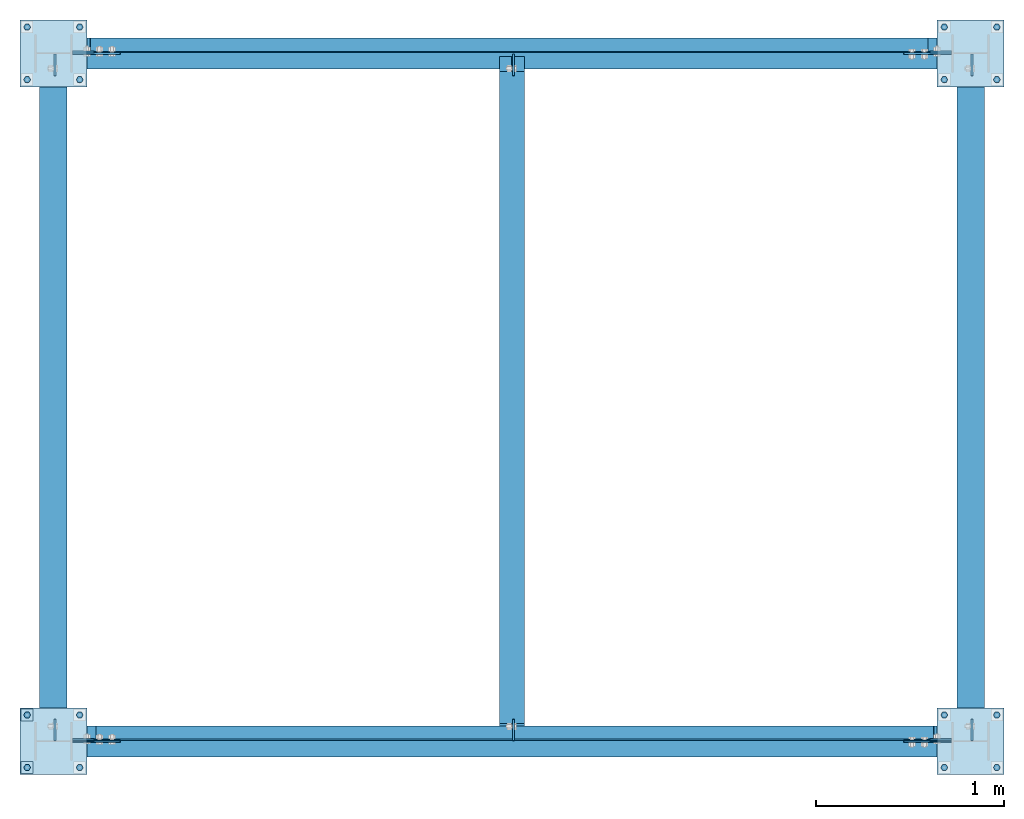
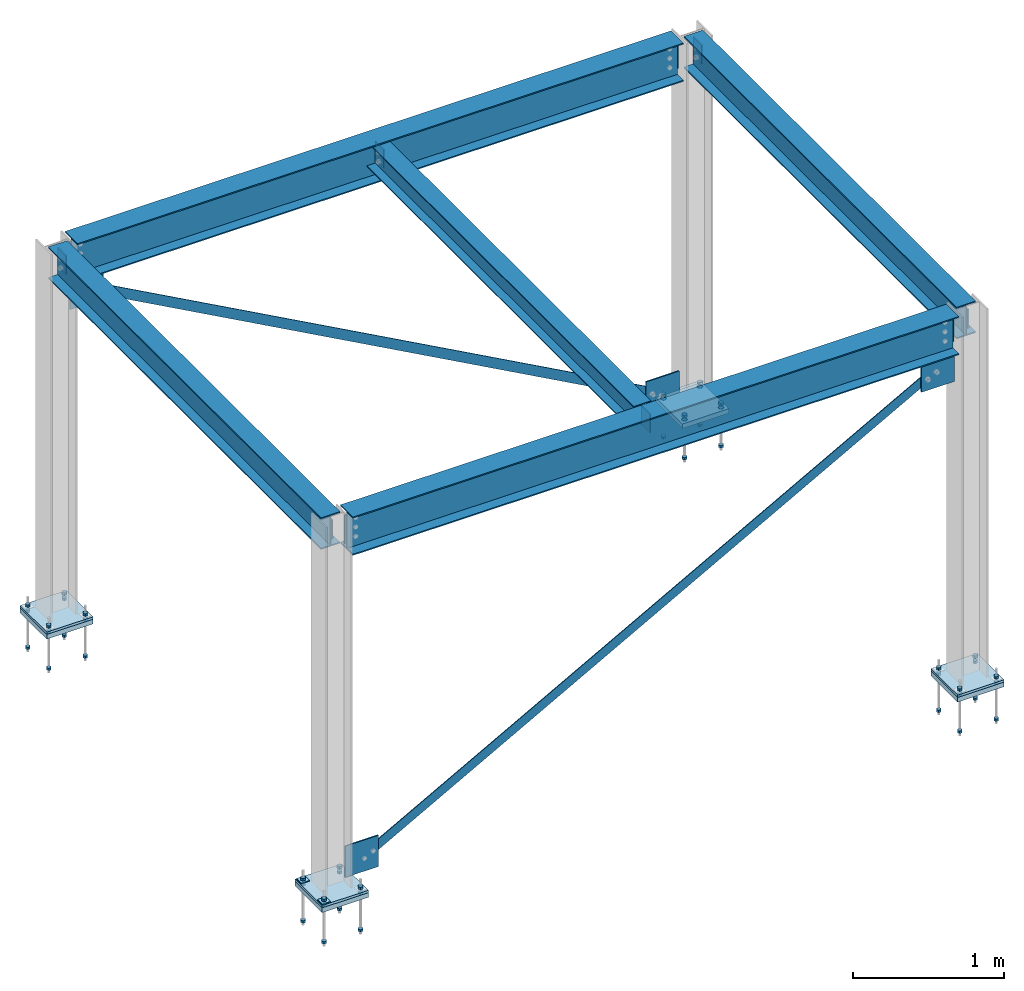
# One storey, part 4 of 5: 48 columns, 20 plates, 5 beams, 4 slabs, 2 members, 20 openings.
"""IFC4 building model written with IfcOpenShell, lengths in millimetres."""

from ifc_helpers import new_model, si_unit, direction, frame, origin_with_axes, place, context, subcontext, project, spatial, line, indexed_curve, outline, extrude, material, element, save


model = new_model("IFC4")

# Units and contexts
model_context = context("Model", 3, precision=0.2, world=origin_with_axes(), true_north=direction((0.0, 1.0)))
body_context = subcontext(model_context, "Body", "Model", "MODEL_VIEW")
ifc_project = project(units=[si_unit("LENGTHUNIT", "METRE", prefix="MILLI"), si_unit("AREAUNIT", "SQUARE_METRE"), si_unit("VOLUMEUNIT", "CUBIC_METRE"), si_unit("MASSUNIT", "GRAM", prefix="KILO"), si_unit("TIMEUNIT", "SECOND"), si_unit("PLANEANGLEUNIT", "RADIAN"), si_unit("SOLIDANGLEUNIT", "STERADIAN"), si_unit("THERMODYNAMICTEMPERATUREUNIT", "DEGREE_CELSIUS"), si_unit("LUMINOUSINTENSITYUNIT", "LUMEN")], contexts=[model_context])

# Site, building, storey
site_placement = place(None, origin_with_axes())
site = spatial("IfcSite", under=ifc_project, at=site_placement, Name="Unknown", CompositionType="ELEMENT")
building_placement = place(site_placement, origin_with_axes())
building = spatial("IfcBuilding", under=site, at=building_placement, Name="Unknown", CompositionType="ELEMENT")
storey_placement = place(building_placement, origin_with_axes())
storey = spatial("IfcBuildingStorey", under=building, at=storey_placement, Name="Unknown", CompositionType="ELEMENT", Elevation=0.0)

# Columns
ifc_material_1 = material(Name="A563", Category="STEEL")
for number, where, z_axis, x_axis, name in (
    (1, (-139.7, -139.7, -279.4), (-1.0, 0.0, 0.0), (0.0, 0.0, 1.0), "ANCHOR NUT"),
    (2, (-139.7, -139.7, 63.5), (-1.0, 0.0, 0.0), (0.0, 0.0, 1.0), "ANCHOR NUT"),
    (3, (-139.7, -139.7, 19.44688), (-1.0, 0.0, 0.0), (0.0, 0.0, 1.0), "LEVELING NUT"),
    (4, (-139.7, 139.7, -279.4), (-1.0, 0.0, 0.0), (0.0, 0.0, 1.0), "ANCHOR NUT"),
    (5, (-139.7, 139.7, 63.5), (-1.0, 0.0, 0.0), (0.0, 0.0, 1.0), "ANCHOR NUT"),
    (6, (-139.7, 139.7, 19.44688), (-1.0, 0.0, 0.0), (0.0, 0.0, 1.0), "LEVELING NUT"),
    (7, (139.7, -139.7, -279.4), (-1.0, 0.0, 0.0), (0.0, 0.0, 1.0), "ANCHOR NUT"),
    (8, (139.7, -139.7, 63.5), (-1.0, 0.0, 0.0), (0.0, 0.0, 1.0), "ANCHOR NUT"),
    (9, (139.7, -139.7, 19.44688), (-1.0, 0.0, 0.0), (0.0, 0.0, 1.0), "LEVELING NUT"),
    (10, (139.7, 139.7, -279.4), (-1.0, 0.0, 0.0), (0.0, 0.0, 1.0), "ANCHOR NUT"),
    (11, (139.7, 139.7, 63.5), (-1.0, 0.0, 0.0), (0.0, 0.0, 1.0), "ANCHOR NUT"),
    (12, (139.7, 139.7, 19.44688), (-1.0, 0.0, 0.0), (0.0, 0.0, 1.0), "LEVELING NUT"),
    (13, (4737.1, -139.7, -279.4), (-1.0, 0.0, 0.0), (0.0, 0.0, 1.0), "ANCHOR NUT"),
    (14, (4737.1, -139.7, 63.5), (-1.0, 0.0, 0.0), (0.0, 0.0, 1.0), "ANCHOR NUT"),
    (15, (4737.1, -139.7, 19.44688), (-1.0, 0.0, 0.0), (0.0, 0.0, 1.0), "LEVELING NUT"),
    (16, (4737.1, 139.7, -279.4), (-1.0, 0.0, 0.0), (0.0, 0.0, 1.0), "ANCHOR NUT"),
    (17, (4737.1, 139.7, 63.5), (-1.0, 0.0, 0.0), (0.0, 0.0, 1.0), "ANCHOR NUT"),
    (18, (4737.1, 139.7, 19.44688), (-1.0, 0.0, 0.0), (0.0, 0.0, 1.0), "LEVELING NUT"),
    (19, (5016.5, -139.7, -279.4), (-1.0, 0.0, 0.0), (0.0, 0.0, 1.0), "ANCHOR NUT"),
    (20, (5016.5, -139.7, 63.5), (-1.0, 0.0, 0.0), (0.0, 0.0, 1.0), "ANCHOR NUT"),
    (21, (5016.5, -139.7, 19.44688), (-1.0, 0.0, 0.0), (0.0, 0.0, 1.0), "LEVELING NUT"),
    (22, (5016.5, 139.7, -279.4), (-1.0, 0.0, 0.0), (0.0, 0.0, 1.0), "ANCHOR NUT"),
    (23, (5016.5, 139.7, 63.5), (-1.0, 0.0, 0.0), (0.0, 0.0, 1.0), "ANCHOR NUT"),
    (24, (5016.5, 139.7, 19.44688), (-1.0, 0.0, 0.0), (0.0, 0.0, 1.0), "LEVELING NUT"),
    (25, (-139.7, 3517.9, -279.4), (-1.0, 0.0, 0.0), (0.0, 0.0, 1.0), "ANCHOR NUT"),
    (26, (-139.7, 3517.9, 63.5), (-1.0, 0.0, 0.0), (0.0, 0.0, 1.0), "ANCHOR NUT"),
    (27, (-139.7, 3517.9, 19.44688), (-1.0, 0.0, 0.0), (0.0, 0.0, 1.0), "LEVELING NUT"),
    (28, (-139.7, 3797.3, -279.4), (-1.0, 0.0, 0.0), (0.0, 0.0, 1.0), "ANCHOR NUT"),
    (29, (-139.7, 3797.3, 63.5), (-1.0, 0.0, 0.0), (0.0, 0.0, 1.0), "ANCHOR NUT"),
    (30, (-139.7, 3797.3, 19.44688), (-1.0, 0.0, 0.0), (0.0, 0.0, 1.0), "LEVELING NUT"),
    (31, (139.7, 3517.9, -279.4), (-1.0, 0.0, 0.0), (0.0, 0.0, 1.0), "ANCHOR NUT"),
    (32, (139.7, 3517.9, 63.5), (-1.0, 0.0, 0.0), (0.0, 0.0, 1.0), "ANCHOR NUT"),
    (33, (139.7, 3517.9, 19.44688), (-1.0, 0.0, 0.0), (0.0, 0.0, 1.0), "LEVELING NUT"),
    (34, (139.7, 3797.3, -279.4), (-1.0, 0.0, 0.0), (0.0, 0.0, 1.0), "ANCHOR NUT"),
    (35, (139.7, 3797.3, 63.5), (-1.0, 0.0, 0.0), (0.0, 0.0, 1.0), "ANCHOR NUT"),
    (36, (139.7, 3797.3, 19.44688), (-1.0, 0.0, 0.0), (0.0, 0.0, 1.0), "LEVELING NUT"),
    (37, (4737.1, 3517.9, -279.4), (-1.0, 0.0, 0.0), (0.0, 0.0, 1.0), "ANCHOR NUT"),
    (38, (4737.1, 3517.9, 63.5), (-1.0, 0.0, 0.0), (0.0, 0.0, 1.0), "ANCHOR NUT"),
    (39, (4737.1, 3517.9, 19.44688), (-1.0, 0.0, 0.0), (0.0, 0.0, 1.0), "LEVELING NUT"),
    (40, (4737.1, 3797.3, -279.4), (-1.0, 0.0, 0.0), (0.0, 0.0, 1.0), "ANCHOR NUT"),
    (41, (4737.1, 3797.3, 63.5), (-1.0, 0.0, 0.0), (0.0, 0.0, 1.0), "ANCHOR NUT"),
    (42, (4737.1, 3797.3, 19.44688), (-1.0, 0.0, 0.0), (0.0, 0.0, 1.0), "LEVELING NUT"),
    (43, (5016.5, 3517.9, -279.4), (-1.0, 0.0, 0.0), (0.0, 0.0, 1.0), "ANCHOR NUT"),
    (44, (5016.5, 3517.9, 63.5), (-1.0, 0.0, 0.0), (0.0, 0.0, 1.0), "ANCHOR NUT"),
    (45, (5016.5, 3517.9, 19.44688), (-1.0, 0.0, 0.0), (0.0, 0.0, 1.0), "LEVELING NUT"),
    (46, (5016.5, 3797.3, -279.4), (-1.0, 0.0, 0.0), (0.0, 0.0, 1.0), "ANCHOR NUT"),
    (47, (5016.5, 3797.3, 63.5), (-1.0, 0.0, 0.0), (0.0, 0.0, 1.0), "ANCHOR NUT"),
    (48, (5016.5, 3797.3, 19.44688), (-1.0, 0.0, 0.0), (0.0, 0.0, 1.0), "LEVELING NUT"),
):
    element("IfcColumn", number, at=place(storey_placement, frame(where, z_axis=z_axis, x_axis=x_axis)), inside=storey, material=ifc_material_1, Name=name, PredefinedType="NOTDEFINED", context=body_context, shape_type="SolidModel", body=[
        extrude(outline(indexed_curve([(9.16558, -15.87525), (18.33116, 0.0), (9.16558, 15.87525), (-9.16558, 15.87525), (-18.33116, 0.0), (-9.16558, -15.87525)], segments=[line(1, 2, 3, 4, 5, 6, 1)])), frame((0.0, 0.0, 0.0), z_axis=(-1.0, 0.0, 0.0), x_axis=(0.0, 0.0, 1.0)), (0.0, 0.0, -1.0), 18.65313),
    ])

# Beams
ifc_material_2 = material(Name="A992", Category="STEEL")
for number, where, z_axis, x_axis, name in (
    (49, (114.3, 0.0, 2892.425), (0.0, -1.0, 0.0), (1.0, 0.0, 0.0), "BEAM"),
    (50, (114.3, 3657.6, 2892.425), (0.0, -1.0, 0.0), (1.0, 0.0, 0.0), "BEAM"),
):
    element("IfcBeam", number, at=place(storey_placement, frame(where, z_axis=z_axis, x_axis=x_axis)), inside=storey, material=ifc_material_2, Name=name, PredefinedType="NOTDEFINED", context=body_context, shape_type="SolidModel", body=[
        extrude(outline(indexed_curve([(-82.55, -155.575), (82.55, -155.575), (82.55, -146.05), (3.175, -146.05), (3.175, 146.05), (82.55, 146.05), (82.55, 155.575), (-82.55, 155.575), (-82.55, 146.05), (-3.175, 146.05), (-3.175, -146.05), (-82.55, -146.05)], segments=[line(1, 2, 3, 4, 5, 6, 7, 8, 9, 10, 11, 12, 1)])), frame((0.0, 0.0, 0.0), z_axis=(-1.0, 0.0, 0.0), x_axis=(0.0, 0.0, 1.0)), (0.0, 0.0, -1.0), 4648.2),
    ])
for number, where, z_axis, x_axis, name in (
    (51, (0.0, 16.66875, 2919.4125), (1.0, 0.0, 0.0), (0.0, 1.0, 0.0), "BEAM"),
    (52, (4876.8, 16.66875, 2919.4125), (1.0, 0.0, 0.0), (0.0, 1.0, 0.0), "BEAM"),
):
    element("IfcBeam", number, at=place(storey_placement, frame(where, z_axis=z_axis, x_axis=x_axis)), inside=storey, material=ifc_material_2, Name=name, PredefinedType="NOTDEFINED", context=body_context, shape_type="SolidModel", body=[
        extrude(outline(indexed_curve([(-73.025, -128.5875), (73.025, -128.5875), (73.025, -119.0625), (3.175, -119.0625), (3.175, 119.0625), (73.025, 119.0625), (73.025, 128.5875), (-73.025, 128.5875), (-73.025, 119.0625), (-3.175, 119.0625), (-3.175, -119.0625), (-73.025, -119.0625)], segments=[line(1, 2, 3, 4, 5, 6, 7, 8, 9, 10, 11, 12, 1)])), frame((0.0, 0.0, 0.0), z_axis=(-1.0, 0.0, 0.0), x_axis=(0.0, 0.0, 1.0)), (0.0, 0.0, -1.0), 3624.2625),
    ])

# Beam, voiding features
beam_placement = place(storey_placement, frame((2438.4, 15.875, 2944.8125), z_axis=(1.0, 0.0, 0.0), x_axis=(0.0, 1.0, 0.0)))
beam = element("IfcBeam", 53, at=beam_placement, inside=storey, material=ifc_material_2, Name="BEAM", PredefinedType="NOTDEFINED", context=body_context, shape_type="SolidModel", body=[
    extrude(outline(indexed_curve([(-66.675, -103.1875), (66.675, -103.1875), (66.675, -95.25), (3.175, -95.25), (3.175, 95.25), (66.675, 95.25), (66.675, 103.1875), (-66.675, 103.1875), (-66.675, 95.25), (-3.175, 95.25), (-3.175, -95.25), (-66.675, -95.25)], segments=[line(1, 2, 3, 4, 5, 6, 7, 8, 9, 10, 11, 12, 1)])), frame((0.0, 0.0, 0.0), z_axis=(-1.0, 0.0, 0.0), x_axis=(0.0, 0.0, 1.0)), (0.0, 0.0, -1.0), 3625.85),
])
voiding_feature_1_placement = place(beam_placement, frame((-25.395, 103.1875, 0.0), z_axis=(0.0, 1.0, 0.0), x_axis=(1.0, 0.0, 0.0)))
element("IfcVoidingFeature", 54, at=voiding_feature_1_placement, cuts=beam, Name="BEAM", PredefinedType="HOLE", context=body_context, shape_type="SolidModel", body=[
    extrude(outline(indexed_curve([(-25.4, -101.6), (25.4, -101.6), (25.4, 101.6), (-25.4, 101.6)], segments=[line(1, 2, 3, 4, 1)])), frame((0.0, 0.0, 0.0), z_axis=(-1.0, 0.0, 0.0), x_axis=(0.0, 0.0, 1.0)), (0.0, 0.0, -1.0), 104.77),
])
voiding_feature_2_placement = place(beam_placement, frame((3546.475, 103.1875, 0.0), z_axis=(0.0, 1.0, 0.0), x_axis=(1.0, 0.0, 0.0)))
element("IfcVoidingFeature", 55, at=voiding_feature_2_placement, cuts=beam, Name="BEAM", PredefinedType="HOLE", context=body_context, shape_type="SolidModel", body=[
    extrude(outline(indexed_curve([(-25.4, -101.6), (25.4, -101.6), (25.4, 101.6), (-25.4, 101.6)], segments=[line(1, 2, 3, 4, 1)])), frame((0.0, 0.0, 0.0), z_axis=(-1.0, 0.0, 0.0), x_axis=(0.0, 0.0, 1.0)), (0.0, 0.0, -1.0), 104.77),
])

# Members
ifc_material_3 = material(Name="A36", Category="STEEL")
for number, where, z_axis, x_axis, name in (
    (56, (211.47739, 42.8625, 173.35242), (-0.4815682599, 0.0, 0.8764085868), (0.8764085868, 0.0, 0.4815682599), "BRACE"),
    (57, (4665.32261, 3700.4625, 173.35242), (0.0, 1.0, 0.0), (-0.8764085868, 0.0, 0.4815682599), "BRACE"),
):
    element("IfcMember", number, at=place(storey_placement, frame(where, z_axis=z_axis, x_axis=x_axis)), inside=storey, material=ifc_material_3, Name=name, PredefinedType="NOTDEFINED", context=body_context, shape_type="SolidModel", body=[
        extrude(outline(indexed_curve([(-38.1, -38.1), (38.1, -38.1), (38.1, -31.75), (-31.75, -31.75), (-31.75, 38.1), (-38.1, 38.1)], segments=[line(1, 2, 3, 4, 5, 6, 1)])), frame((0.0, 0.0, 0.0), z_axis=(-1.0, 0.0, 0.0), x_axis=(0.0, 0.0, 1.0)), (0.0, 0.0, -1.0), 5081.92786),
    ])

# Plates
plate_1_placement = place(storey_placement, frame((101.6, 0.0, 82.55), z_axis=(0.0, -1.0, 0.0), x_axis=(1.0, 0.0, 0.0)))
element("IfcPlate", 58, at=plate_1_placement, inside=storey, material=ifc_material_3, Name="GUSSET PLATE", PredefinedType="NOTDEFINED", context=body_context, shape_type="SolidModel", body=[
    extrude(outline(indexed_curve([(0.0, 0.0), (254.0, 0.0), (254.0, 254.0), (0.0, 254.0)], segments=[line(1, 2, 3, 4, 1)])), frame((0.0, 0.0, 4.7625), z_axis=(0.0, 0.0, 1.0), x_axis=(1.0, 0.0, 0.0)), (0.0, 0.0, -1.0), 9.525),
])
plate_2_placement = place(storey_placement, frame((7.9375, 3.96875, 2857.5), z_axis=(1.0, 0.0, 0.0), x_axis=(0.0, 1.0, 0.0)))
element("IfcPlate", 59, at=plate_2_placement, inside=storey, material=ifc_material_3, Name="SHEAR TAB", PredefinedType="NOTDEFINED", context=body_context, shape_type="SolidModel", body=[
    extrude(outline(indexed_curve([(0.0, 0.0), (114.3, 0.0), (114.3, 152.4), (0.0, 152.4)], segments=[line(1, 2, 3, 4, 1)])), frame((0.0, 0.0, 4.7625), z_axis=(0.0, 0.0, 1.0), x_axis=(1.0, 0.0, 0.0)), (0.0, 0.0, -1.0), 9.525),
])
plate_3_placement = place(storey_placement, frame((101.6, 7.9375, 2787.65), z_axis=(0.0, -1.0, 0.0), x_axis=(1.0, 0.0, 0.0)))
element("IfcPlate", 60, at=plate_3_placement, inside=storey, material=ifc_material_3, Name="SHEAR TAB", PredefinedType="NOTDEFINED", context=body_context, shape_type="SolidModel", body=[
    extrude(outline(indexed_curve([(0.0, 0.0), (114.3, 0.0), (114.3, 228.6), (0.0, 228.6)], segments=[line(1, 2, 3, 4, 1)])), frame((0.0, 0.0, 4.7625), z_axis=(0.0, 0.0, 1.0), x_axis=(1.0, 0.0, 0.0)), (0.0, 0.0, -1.0), 9.525),
])
plate_4_placement = place(storey_placement, frame((-177.8, -177.8, 47.625), z_axis=(0.0, 0.0, 1.0), x_axis=(1.0, 0.0, 0.0)))
element("IfcPlate", 61, at=plate_4_placement, inside=storey, material=ifc_material_3, Name="BASEPLATE", PredefinedType="NOTDEFINED", context=body_context, shape_type="SolidModel", body=[
    extrude(outline(indexed_curve([(0.0, 0.0), (355.6, 0.0), (355.6, 355.6), (0.0, 355.6)], segments=[line(1, 2, 3, 4, 1)])), frame((0.0, 0.0, 9.525), z_axis=(0.0, 0.0, 1.0), x_axis=(1.0, 0.0, 0.0)), (0.0, 0.0, -1.0), 19.05),
])

# Slab, voiding features
ifc_material_4 = material(Name="GROUT", Category="CONCRETE")
slab_1_placement = place(storey_placement, frame((-177.8, -177.8, 19.05), z_axis=(0.0, 0.0, 1.0), x_axis=(1.0, 0.0, 0.0)))
slab_1 = element("IfcSlab", 62, at=slab_1_placement, inside=storey, material=ifc_material_4, Name="REF NON-SHRINK GROUT", PredefinedType="NOTDEFINED", context=body_context, shape_type="SolidModel", body=[
    extrude(outline(indexed_curve([(0.0, 0.0), (355.6, 0.0), (355.6, 355.6), (0.0, 355.6)], segments=[line(1, 2, 3, 4, 1)])), frame((0.0, 0.0, 19.05), z_axis=(0.0, 0.0, 1.0), x_axis=(1.0, 0.0, 0.0)), (0.0, 0.0, -1.0), 38.1),
])
voiding_feature_3_placement = place(slab_1_placement, frame((38.1, 38.1, 39.05), z_axis=(1.0, 0.0, 0.0), x_axis=(0.0, 0.0, -1.0)))
element("IfcVoidingFeature", 63, at=voiding_feature_3_placement, cuts=slab_1, Name="BEAM", PredefinedType="HOLE", context=body_context, shape_type="SolidModel", body=[
    extrude(outline(indexed_curve([(19.85, 0.0), (17.1906, 9.925), (9.925, 17.1906), (0.0, 19.85), (-9.925, 17.1906), (-17.1906, 9.925), (-19.85, 0.0), (-17.1906, -9.925), (-9.925, -17.1906), (0.0, -19.85), (9.925, -17.1906), (17.1906, -9.925)], segments=[line(1, 2, 3, 4, 5, 6, 7, 8, 9, 10, 11, 12, 1)])), frame((0.0, 0.0, 0.0), z_axis=(-1.0, 0.0, 0.0), x_axis=(0.0, 0.0, 1.0)), (0.0, 0.0, -1.0), 78.1),
])
voiding_feature_4_placement = place(slab_1_placement, frame((38.1, 317.5, 39.05), z_axis=(1.0, 0.0, 0.0), x_axis=(0.0, 0.0, -1.0)))
element("IfcVoidingFeature", 64, at=voiding_feature_4_placement, cuts=slab_1, Name="BEAM", PredefinedType="HOLE", context=body_context, shape_type="SolidModel", body=[
    extrude(outline(indexed_curve([(19.85, 0.0), (17.1906, 9.925), (9.925, 17.1906), (0.0, 19.85), (-9.925, 17.1906), (-17.1906, 9.925), (-19.85, 0.0), (-17.1906, -9.925), (-9.925, -17.1906), (0.0, -19.85), (9.925, -17.1906), (17.1906, -9.925)], segments=[line(1, 2, 3, 4, 5, 6, 7, 8, 9, 10, 11, 12, 1)])), frame((0.0, 0.0, 0.0), z_axis=(-1.0, 0.0, 0.0), x_axis=(0.0, 0.0, 1.0)), (0.0, 0.0, -1.0), 78.1),
])
voiding_feature_5_placement = place(slab_1_placement, frame((317.5, 38.1, 39.05), z_axis=(1.0, 0.0, 0.0), x_axis=(0.0, 0.0, -1.0)))
element("IfcVoidingFeature", 65, at=voiding_feature_5_placement, cuts=slab_1, Name="BEAM", PredefinedType="HOLE", context=body_context, shape_type="SolidModel", body=[
    extrude(outline(indexed_curve([(19.85, 0.0), (17.1906, 9.925), (9.925, 17.1906), (0.0, 19.85), (-9.925, 17.1906), (-17.1906, 9.925), (-19.85, 0.0), (-17.1906, -9.925), (-9.925, -17.1906), (0.0, -19.85), (9.925, -17.1906), (17.1906, -9.925)], segments=[line(1, 2, 3, 4, 5, 6, 7, 8, 9, 10, 11, 12, 1)])), frame((0.0, 0.0, 0.0), z_axis=(-1.0, 0.0, 0.0), x_axis=(0.0, 0.0, 1.0)), (0.0, 0.0, -1.0), 78.1),
])
voiding_feature_6_placement = place(slab_1_placement, frame((317.5, 317.5, 39.05), z_axis=(1.0, 0.0, 0.0), x_axis=(0.0, 0.0, -1.0)))
element("IfcVoidingFeature", 66, at=voiding_feature_6_placement, cuts=slab_1, Name="BEAM", PredefinedType="HOLE", context=body_context, shape_type="SolidModel", body=[
    extrude(outline(indexed_curve([(19.85, 0.0), (17.1906, 9.925), (9.925, 17.1906), (0.0, 19.85), (-9.925, 17.1906), (-17.1906, 9.925), (-19.85, 0.0), (-17.1906, -9.925), (-9.925, -17.1906), (0.0, -19.85), (9.925, -17.1906), (17.1906, -9.925)], segments=[line(1, 2, 3, 4, 5, 6, 7, 8, 9, 10, 11, 12, 1)])), frame((0.0, 0.0, 0.0), z_axis=(-1.0, 0.0, 0.0), x_axis=(0.0, 0.0, 1.0)), (0.0, 0.0, -1.0), 78.1),
])

# Plate, voiding feature
plate_5_placement = place(storey_placement, frame((-171.45, -171.45, 60.325), z_axis=(0.0, 0.0, 1.0), x_axis=(1.0, 0.0, 0.0)))
plate_5 = element("IfcPlate", 67, at=plate_5_placement, inside=storey, material=ifc_material_3, Name="PLATE WASHER", PredefinedType="NOTDEFINED", context=body_context, shape_type="SolidModel", body=[
    extrude(outline(indexed_curve([(0.0, 0.0), (63.5, 0.0), (63.5, 63.5), (0.0, 63.5)], segments=[line(1, 2, 3, 4, 1)])), frame((0.0, 0.0, 3.175), z_axis=(0.0, 0.0, 1.0), x_axis=(1.0, 0.0, 0.0)), (0.0, 0.0, -1.0), 6.35),
])
voiding_feature_7_placement = place(plate_5_placement, frame((31.75, 31.75, 23.175), z_axis=(1.0, 0.0, 0.0), x_axis=(0.0, 0.0, -1.0)))
element("IfcVoidingFeature", 68, at=voiding_feature_7_placement, cuts=plate_5, Name="BEAM", PredefinedType="HOLE", context=body_context, shape_type="SolidModel", body=[
    extrude(outline(indexed_curve([(10.3185, 0.0), (8.93608, 5.15925), (5.15925, 8.93608), (0.0, 10.3185), (-5.15925, 8.93608), (-8.93608, 5.15925), (-10.3185, 0.0), (-8.93608, -5.15925), (-5.15925, -8.93608), (0.0, -10.3185), (5.15925, -8.93608), (8.93608, -5.15925)], segments=[line(1, 2, 3, 4, 5, 6, 7, 8, 9, 10, 11, 12, 1)])), frame((0.0, 0.0, 0.0), z_axis=(-1.0, 0.0, 0.0), x_axis=(0.0, 0.0, 1.0)), (0.0, 0.0, -1.0), 46.35),
])

plate_6_placement = place(storey_placement, frame((-171.45, 107.95, 60.325), z_axis=(0.0, 0.0, 1.0), x_axis=(1.0, 0.0, 0.0)))
plate_6 = element("IfcPlate", 69, at=plate_6_placement, inside=storey, material=ifc_material_3, Name="PLATE WASHER", PredefinedType="NOTDEFINED", context=body_context, shape_type="SolidModel", body=[
    extrude(outline(indexed_curve([(0.0, 0.0), (63.5, 0.0), (63.5, 63.5), (0.0, 63.5)], segments=[line(1, 2, 3, 4, 1)])), frame((0.0, 0.0, 3.175), z_axis=(0.0, 0.0, 1.0), x_axis=(1.0, 0.0, 0.0)), (0.0, 0.0, -1.0), 6.35),
])
voiding_feature_8_placement = place(plate_6_placement, frame((31.75, 31.75, 23.175), z_axis=(1.0, 0.0, 0.0), x_axis=(0.0, 0.0, -1.0)))
element("IfcVoidingFeature", 70, at=voiding_feature_8_placement, cuts=plate_6, Name="BEAM", PredefinedType="HOLE", context=body_context, shape_type="SolidModel", body=[
    extrude(outline(indexed_curve([(10.3185, 0.0), (8.93608, 5.15925), (5.15925, 8.93608), (0.0, 10.3185), (-5.15925, 8.93608), (-8.93608, 5.15925), (-10.3185, 0.0), (-8.93608, -5.15925), (-5.15925, -8.93608), (0.0, -10.3185), (5.15925, -8.93608), (8.93608, -5.15925)], segments=[line(1, 2, 3, 4, 5, 6, 7, 8, 9, 10, 11, 12, 1)])), frame((0.0, 0.0, 0.0), z_axis=(-1.0, 0.0, 0.0), x_axis=(0.0, 0.0, 1.0)), (0.0, 0.0, -1.0), 46.35),
])

# Plates
plate_7_placement = place(storey_placement, frame((4775.2, 0.0, 2470.15), z_axis=(0.0, 1.0, 0.0), x_axis=(-1.0, 0.0, 0.0)))
element("IfcPlate", 71, at=plate_7_placement, inside=storey, material=ifc_material_3, Name="GUSSET PLATE", PredefinedType="NOTDEFINED", context=body_context, shape_type="SolidModel", body=[
    extrude(outline(indexed_curve([(0.0, 0.0), (254.0, 0.0), (254.0, 254.0), (0.0, 254.0)], segments=[line(1, 2, 3, 4, 1)])), frame((0.0, 0.0, 4.7625), z_axis=(0.0, 0.0, 1.0), x_axis=(1.0, 0.0, 0.0)), (0.0, 0.0, -1.0), 9.525),
])
plate_8_placement = place(storey_placement, frame((4884.7375, 3.96875, 2857.5), z_axis=(1.0, 0.0, 0.0), x_axis=(0.0, 1.0, 0.0)))
element("IfcPlate", 72, at=plate_8_placement, inside=storey, material=ifc_material_3, Name="SHEAR TAB", PredefinedType="NOTDEFINED", context=body_context, shape_type="SolidModel", body=[
    extrude(outline(indexed_curve([(0.0, 0.0), (114.3, 0.0), (114.3, 152.4), (0.0, 152.4)], segments=[line(1, 2, 3, 4, 1)])), frame((0.0, 0.0, 4.7625), z_axis=(0.0, 0.0, 1.0), x_axis=(1.0, 0.0, 0.0)), (0.0, 0.0, -1.0), 9.525),
])
plate_9_placement = place(storey_placement, frame((4775.2, 7.9375, 2787.65), z_axis=(0.0, 1.0, 0.0), x_axis=(-1.0, 0.0, 0.0)))
element("IfcPlate", 73, at=plate_9_placement, inside=storey, material=ifc_material_3, Name="SHEAR TAB", PredefinedType="NOTDEFINED", context=body_context, shape_type="SolidModel", body=[
    extrude(outline(indexed_curve([(0.0, 0.0), (114.3, 0.0), (114.3, 228.6), (0.0, 228.6)], segments=[line(1, 2, 3, 4, 1)])), frame((0.0, 0.0, 4.7625), z_axis=(0.0, 0.0, 1.0), x_axis=(1.0, 0.0, 0.0)), (0.0, 0.0, -1.0), 9.525),
])
plate_10_placement = place(storey_placement, frame((4699.0, -177.8, 47.625), z_axis=(0.0, 0.0, 1.0), x_axis=(1.0, 0.0, 0.0)))
element("IfcPlate", 74, at=plate_10_placement, inside=storey, material=ifc_material_3, Name="BASEPLATE", PredefinedType="NOTDEFINED", context=body_context, shape_type="SolidModel", body=[
    extrude(outline(indexed_curve([(0.0, 0.0), (355.6, 0.0), (355.6, 355.6), (0.0, 355.6)], segments=[line(1, 2, 3, 4, 1)])), frame((0.0, 0.0, 9.525), z_axis=(0.0, 0.0, 1.0), x_axis=(1.0, 0.0, 0.0)), (0.0, 0.0, -1.0), 19.05),
])

# Slab, voiding features
slab_2_placement = place(storey_placement, frame((4699.0, -177.8, 19.05), z_axis=(0.0, 0.0, 1.0), x_axis=(1.0, 0.0, 0.0)))
slab_2 = element("IfcSlab", 75, at=slab_2_placement, inside=storey, material=ifc_material_4, Name="REF NON-SHRINK GROUT", PredefinedType="NOTDEFINED", context=body_context, shape_type="SolidModel", body=[
    extrude(outline(indexed_curve([(0.0, 0.0), (355.6, 0.0), (355.6, 355.6), (0.0, 355.6)], segments=[line(1, 2, 3, 4, 1)])), frame((0.0, 0.0, 19.05), z_axis=(0.0, 0.0, 1.0), x_axis=(1.0, 0.0, 0.0)), (0.0, 0.0, -1.0), 38.1),
])
voiding_feature_9_placement = place(slab_2_placement, frame((38.1, 38.1, 39.05), z_axis=(1.0, 0.0, 0.0), x_axis=(0.0, 0.0, -1.0)))
element("IfcVoidingFeature", 76, at=voiding_feature_9_placement, cuts=slab_2, Name="BEAM", PredefinedType="HOLE", context=body_context, shape_type="SolidModel", body=[
    extrude(outline(indexed_curve([(19.85, 0.0), (17.1906, 9.925), (9.925, 17.1906), (0.0, 19.85), (-9.925, 17.1906), (-17.1906, 9.925), (-19.85, 0.0), (-17.1906, -9.925), (-9.925, -17.1906), (0.0, -19.85), (9.925, -17.1906), (17.1906, -9.925)], segments=[line(1, 2, 3, 4, 5, 6, 7, 8, 9, 10, 11, 12, 1)])), frame((0.0, 0.0, 0.0), z_axis=(-1.0, 0.0, 0.0), x_axis=(0.0, 0.0, 1.0)), (0.0, 0.0, -1.0), 78.1),
])
voiding_feature_10_placement = place(slab_2_placement, frame((38.1, 317.5, 39.05), z_axis=(1.0, 0.0, 0.0), x_axis=(0.0, 0.0, -1.0)))
element("IfcVoidingFeature", 77, at=voiding_feature_10_placement, cuts=slab_2, Name="BEAM", PredefinedType="HOLE", context=body_context, shape_type="SolidModel", body=[
    extrude(outline(indexed_curve([(19.85, 0.0), (17.1906, 9.925), (9.925, 17.1906), (0.0, 19.85), (-9.925, 17.1906), (-17.1906, 9.925), (-19.85, 0.0), (-17.1906, -9.925), (-9.925, -17.1906), (0.0, -19.85), (9.925, -17.1906), (17.1906, -9.925)], segments=[line(1, 2, 3, 4, 5, 6, 7, 8, 9, 10, 11, 12, 1)])), frame((0.0, 0.0, 0.0), z_axis=(-1.0, 0.0, 0.0), x_axis=(0.0, 0.0, 1.0)), (0.0, 0.0, -1.0), 78.1),
])
voiding_feature_11_placement = place(slab_2_placement, frame((317.5, 38.1, 39.05), z_axis=(1.0, 0.0, 0.0), x_axis=(0.0, 0.0, -1.0)))
element("IfcVoidingFeature", 78, at=voiding_feature_11_placement, cuts=slab_2, Name="BEAM", PredefinedType="HOLE", context=body_context, shape_type="SolidModel", body=[
    extrude(outline(indexed_curve([(19.85, 0.0), (17.1906, 9.925), (9.925, 17.1906), (0.0, 19.85), (-9.925, 17.1906), (-17.1906, 9.925), (-19.85, 0.0), (-17.1906, -9.925), (-9.925, -17.1906), (0.0, -19.85), (9.925, -17.1906), (17.1906, -9.925)], segments=[line(1, 2, 3, 4, 5, 6, 7, 8, 9, 10, 11, 12, 1)])), frame((0.0, 0.0, 0.0), z_axis=(-1.0, 0.0, 0.0), x_axis=(0.0, 0.0, 1.0)), (0.0, 0.0, -1.0), 78.1),
])
voiding_feature_12_placement = place(slab_2_placement, frame((317.5, 317.5, 39.05), z_axis=(1.0, 0.0, 0.0), x_axis=(0.0, 0.0, -1.0)))
element("IfcVoidingFeature", 79, at=voiding_feature_12_placement, cuts=slab_2, Name="BEAM", PredefinedType="HOLE", context=body_context, shape_type="SolidModel", body=[
    extrude(outline(indexed_curve([(19.85, 0.0), (17.1906, 9.925), (9.925, 17.1906), (0.0, 19.85), (-9.925, 17.1906), (-17.1906, 9.925), (-19.85, 0.0), (-17.1906, -9.925), (-9.925, -17.1906), (0.0, -19.85), (9.925, -17.1906), (17.1906, -9.925)], segments=[line(1, 2, 3, 4, 5, 6, 7, 8, 9, 10, 11, 12, 1)])), frame((0.0, 0.0, 0.0), z_axis=(-1.0, 0.0, 0.0), x_axis=(0.0, 0.0, 1.0)), (0.0, 0.0, -1.0), 78.1),
])

# Plates
plate_11_placement = place(storey_placement, frame((101.6, 3657.6, 2470.15), z_axis=(0.0, -1.0, 0.0), x_axis=(1.0, 0.0, 0.0)))
element("IfcPlate", 80, at=plate_11_placement, inside=storey, material=ifc_material_3, Name="GUSSET PLATE", PredefinedType="NOTDEFINED", context=body_context, shape_type="SolidModel", body=[
    extrude(outline(indexed_curve([(0.0, 0.0), (254.0, 0.0), (254.0, 254.0), (0.0, 254.0)], segments=[line(1, 2, 3, 4, 1)])), frame((0.0, 0.0, 4.7625), z_axis=(0.0, 0.0, 1.0), x_axis=(1.0, 0.0, 0.0)), (0.0, 0.0, -1.0), 9.525),
])
plate_12_placement = place(storey_placement, frame((7.9375, 3653.63125, 2857.5), z_axis=(-1.0, 0.0, 0.0), x_axis=(0.0, -1.0, 0.0)))
element("IfcPlate", 81, at=plate_12_placement, inside=storey, material=ifc_material_3, Name="SHEAR TAB", PredefinedType="NOTDEFINED", context=body_context, shape_type="SolidModel", body=[
    extrude(outline(indexed_curve([(0.0, 0.0), (114.3, 0.0), (114.3, 152.4), (0.0, 152.4)], segments=[line(1, 2, 3, 4, 1)])), frame((0.0, 0.0, 4.7625), z_axis=(0.0, 0.0, 1.0), x_axis=(1.0, 0.0, 0.0)), (0.0, 0.0, -1.0), 9.525),
])
plate_13_placement = place(storey_placement, frame((101.6, 3665.5375, 2787.65), z_axis=(0.0, -1.0, 0.0), x_axis=(1.0, 0.0, 0.0)))
element("IfcPlate", 82, at=plate_13_placement, inside=storey, material=ifc_material_3, Name="SHEAR TAB", PredefinedType="NOTDEFINED", context=body_context, shape_type="SolidModel", body=[
    extrude(outline(indexed_curve([(0.0, 0.0), (114.3, 0.0), (114.3, 228.6), (0.0, 228.6)], segments=[line(1, 2, 3, 4, 1)])), frame((0.0, 0.0, 4.7625), z_axis=(0.0, 0.0, 1.0), x_axis=(1.0, 0.0, 0.0)), (0.0, 0.0, -1.0), 9.525),
])
plate_14_placement = place(storey_placement, frame((-177.8, 3479.8, 47.625), z_axis=(0.0, 0.0, 1.0), x_axis=(1.0, 0.0, 0.0)))
element("IfcPlate", 83, at=plate_14_placement, inside=storey, material=ifc_material_3, Name="BASEPLATE", PredefinedType="NOTDEFINED", context=body_context, shape_type="SolidModel", body=[
    extrude(outline(indexed_curve([(0.0, 0.0), (355.6, 0.0), (355.6, 355.6), (0.0, 355.6)], segments=[line(1, 2, 3, 4, 1)])), frame((0.0, 0.0, 9.525), z_axis=(0.0, 0.0, 1.0), x_axis=(1.0, 0.0, 0.0)), (0.0, 0.0, -1.0), 19.05),
])

# Slab, voiding features
slab_3_placement = place(storey_placement, frame((-177.8, 3479.8, 19.05), z_axis=(0.0, 0.0, 1.0), x_axis=(1.0, 0.0, 0.0)))
slab_3 = element("IfcSlab", 84, at=slab_3_placement, inside=storey, material=ifc_material_4, Name="REF NON-SHRINK GROUT", PredefinedType="NOTDEFINED", context=body_context, shape_type="SolidModel", body=[
    extrude(outline(indexed_curve([(0.0, 0.0), (355.6, 0.0), (355.6, 355.6), (0.0, 355.6)], segments=[line(1, 2, 3, 4, 1)])), frame((0.0, 0.0, 19.05), z_axis=(0.0, 0.0, 1.0), x_axis=(1.0, 0.0, 0.0)), (0.0, 0.0, -1.0), 38.1),
])
voiding_feature_13_placement = place(slab_3_placement, frame((38.1, 38.1, 39.05), z_axis=(1.0, 0.0, 0.0), x_axis=(0.0, 0.0, -1.0)))
element("IfcVoidingFeature", 85, at=voiding_feature_13_placement, cuts=slab_3, Name="BEAM", PredefinedType="HOLE", context=body_context, shape_type="SolidModel", body=[
    extrude(outline(indexed_curve([(19.85, 0.0), (17.1906, 9.925), (9.925, 17.1906), (0.0, 19.85), (-9.925, 17.1906), (-17.1906, 9.925), (-19.85, 0.0), (-17.1906, -9.925), (-9.925, -17.1906), (0.0, -19.85), (9.925, -17.1906), (17.1906, -9.925)], segments=[line(1, 2, 3, 4, 5, 6, 7, 8, 9, 10, 11, 12, 1)])), frame((0.0, 0.0, 0.0), z_axis=(-1.0, 0.0, 0.0), x_axis=(0.0, 0.0, 1.0)), (0.0, 0.0, -1.0), 78.1),
])
voiding_feature_14_placement = place(slab_3_placement, frame((38.1, 317.5, 39.05), z_axis=(1.0, 0.0, 0.0), x_axis=(0.0, 0.0, -1.0)))
element("IfcVoidingFeature", 86, at=voiding_feature_14_placement, cuts=slab_3, Name="BEAM", PredefinedType="HOLE", context=body_context, shape_type="SolidModel", body=[
    extrude(outline(indexed_curve([(19.85, 0.0), (17.1906, 9.925), (9.925, 17.1906), (0.0, 19.85), (-9.925, 17.1906), (-17.1906, 9.925), (-19.85, 0.0), (-17.1906, -9.925), (-9.925, -17.1906), (0.0, -19.85), (9.925, -17.1906), (17.1906, -9.925)], segments=[line(1, 2, 3, 4, 5, 6, 7, 8, 9, 10, 11, 12, 1)])), frame((0.0, 0.0, 0.0), z_axis=(-1.0, 0.0, 0.0), x_axis=(0.0, 0.0, 1.0)), (0.0, 0.0, -1.0), 78.1),
])
voiding_feature_15_placement = place(slab_3_placement, frame((317.5, 38.1, 39.05), z_axis=(1.0, 0.0, 0.0), x_axis=(0.0, 0.0, -1.0)))
element("IfcVoidingFeature", 87, at=voiding_feature_15_placement, cuts=slab_3, Name="BEAM", PredefinedType="HOLE", context=body_context, shape_type="SolidModel", body=[
    extrude(outline(indexed_curve([(19.85, 0.0), (17.1906, 9.925), (9.925, 17.1906), (0.0, 19.85), (-9.925, 17.1906), (-17.1906, 9.925), (-19.85, 0.0), (-17.1906, -9.925), (-9.925, -17.1906), (0.0, -19.85), (9.925, -17.1906), (17.1906, -9.925)], segments=[line(1, 2, 3, 4, 5, 6, 7, 8, 9, 10, 11, 12, 1)])), frame((0.0, 0.0, 0.0), z_axis=(-1.0, 0.0, 0.0), x_axis=(0.0, 0.0, 1.0)), (0.0, 0.0, -1.0), 78.1),
])
voiding_feature_16_placement = place(slab_3_placement, frame((317.5, 317.5, 39.05), z_axis=(1.0, 0.0, 0.0), x_axis=(0.0, 0.0, -1.0)))
element("IfcVoidingFeature", 88, at=voiding_feature_16_placement, cuts=slab_3, Name="BEAM", PredefinedType="HOLE", context=body_context, shape_type="SolidModel", body=[
    extrude(outline(indexed_curve([(19.85, 0.0), (17.1906, 9.925), (9.925, 17.1906), (0.0, 19.85), (-9.925, 17.1906), (-17.1906, 9.925), (-19.85, 0.0), (-17.1906, -9.925), (-9.925, -17.1906), (0.0, -19.85), (9.925, -17.1906), (17.1906, -9.925)], segments=[line(1, 2, 3, 4, 5, 6, 7, 8, 9, 10, 11, 12, 1)])), frame((0.0, 0.0, 0.0), z_axis=(-1.0, 0.0, 0.0), x_axis=(0.0, 0.0, 1.0)), (0.0, 0.0, -1.0), 78.1),
])

# Plates
plate_15_placement = place(storey_placement, frame((4775.2, 3657.6, 82.55), z_axis=(0.0, 1.0, 0.0), x_axis=(-1.0, 0.0, 0.0)))
element("IfcPlate", 89, at=plate_15_placement, inside=storey, material=ifc_material_3, Name="GUSSET PLATE", PredefinedType="NOTDEFINED", context=body_context, shape_type="SolidModel", body=[
    extrude(outline(indexed_curve([(0.0, 0.0), (254.0, 0.0), (254.0, 254.0), (0.0, 254.0)], segments=[line(1, 2, 3, 4, 1)])), frame((0.0, 0.0, 4.7625), z_axis=(0.0, 0.0, 1.0), x_axis=(1.0, 0.0, 0.0)), (0.0, 0.0, -1.0), 9.525),
])
plate_16_placement = place(storey_placement, frame((4884.7375, 3653.63125, 2857.5), z_axis=(-1.0, 0.0, 0.0), x_axis=(0.0, -1.0, 0.0)))
element("IfcPlate", 90, at=plate_16_placement, inside=storey, material=ifc_material_3, Name="SHEAR TAB", PredefinedType="NOTDEFINED", context=body_context, shape_type="SolidModel", body=[
    extrude(outline(indexed_curve([(0.0, 0.0), (114.3, 0.0), (114.3, 152.4), (0.0, 152.4)], segments=[line(1, 2, 3, 4, 1)])), frame((0.0, 0.0, 4.7625), z_axis=(0.0, 0.0, 1.0), x_axis=(1.0, 0.0, 0.0)), (0.0, 0.0, -1.0), 9.525),
])
plate_17_placement = place(storey_placement, frame((4775.2, 3665.5375, 2787.65), z_axis=(0.0, 1.0, 0.0), x_axis=(-1.0, 0.0, 0.0)))
element("IfcPlate", 91, at=plate_17_placement, inside=storey, material=ifc_material_3, Name="SHEAR TAB", PredefinedType="NOTDEFINED", context=body_context, shape_type="SolidModel", body=[
    extrude(outline(indexed_curve([(0.0, 0.0), (114.3, 0.0), (114.3, 228.6), (0.0, 228.6)], segments=[line(1, 2, 3, 4, 1)])), frame((0.0, 0.0, 4.7625), z_axis=(0.0, 0.0, 1.0), x_axis=(1.0, 0.0, 0.0)), (0.0, 0.0, -1.0), 9.525),
])
plate_18_placement = place(storey_placement, frame((4699.0, 3479.8, 47.625), z_axis=(0.0, 0.0, 1.0), x_axis=(1.0, 0.0, 0.0)))
element("IfcPlate", 92, at=plate_18_placement, inside=storey, material=ifc_material_3, Name="BASEPLATE", PredefinedType="NOTDEFINED", context=body_context, shape_type="SolidModel", body=[
    extrude(outline(indexed_curve([(0.0, 0.0), (355.6, 0.0), (355.6, 355.6), (0.0, 355.6)], segments=[line(1, 2, 3, 4, 1)])), frame((0.0, 0.0, 9.525), z_axis=(0.0, 0.0, 1.0), x_axis=(1.0, 0.0, 0.0)), (0.0, 0.0, -1.0), 19.05),
])

# Slab, voiding features
slab_4_placement = place(storey_placement, frame((4699.0, 3479.8, 19.05), z_axis=(0.0, 0.0, 1.0), x_axis=(1.0, 0.0, 0.0)))
slab_4 = element("IfcSlab", 93, at=slab_4_placement, inside=storey, material=ifc_material_4, Name="REF NON-SHRINK GROUT", PredefinedType="NOTDEFINED", context=body_context, shape_type="SolidModel", body=[
    extrude(outline(indexed_curve([(0.0, 0.0), (355.6, 0.0), (355.6, 355.6), (0.0, 355.6)], segments=[line(1, 2, 3, 4, 1)])), frame((0.0, 0.0, 19.05), z_axis=(0.0, 0.0, 1.0), x_axis=(1.0, 0.0, 0.0)), (0.0, 0.0, -1.0), 38.1),
])
voiding_feature_17_placement = place(slab_4_placement, frame((38.1, 38.1, 39.05), z_axis=(1.0, 0.0, 0.0), x_axis=(0.0, 0.0, -1.0)))
element("IfcVoidingFeature", 94, at=voiding_feature_17_placement, cuts=slab_4, Name="BEAM", PredefinedType="HOLE", context=body_context, shape_type="SolidModel", body=[
    extrude(outline(indexed_curve([(19.85, 0.0), (17.1906, 9.925), (9.925, 17.1906), (0.0, 19.85), (-9.925, 17.1906), (-17.1906, 9.925), (-19.85, 0.0), (-17.1906, -9.925), (-9.925, -17.1906), (0.0, -19.85), (9.925, -17.1906), (17.1906, -9.925)], segments=[line(1, 2, 3, 4, 5, 6, 7, 8, 9, 10, 11, 12, 1)])), frame((0.0, 0.0, 0.0), z_axis=(-1.0, 0.0, 0.0), x_axis=(0.0, 0.0, 1.0)), (0.0, 0.0, -1.0), 78.1),
])
voiding_feature_18_placement = place(slab_4_placement, frame((38.1, 317.5, 39.05), z_axis=(1.0, 0.0, 0.0), x_axis=(0.0, 0.0, -1.0)))
element("IfcVoidingFeature", 95, at=voiding_feature_18_placement, cuts=slab_4, Name="BEAM", PredefinedType="HOLE", context=body_context, shape_type="SolidModel", body=[
    extrude(outline(indexed_curve([(19.85, 0.0), (17.1906, 9.925), (9.925, 17.1906), (0.0, 19.85), (-9.925, 17.1906), (-17.1906, 9.925), (-19.85, 0.0), (-17.1906, -9.925), (-9.925, -17.1906), (0.0, -19.85), (9.925, -17.1906), (17.1906, -9.925)], segments=[line(1, 2, 3, 4, 5, 6, 7, 8, 9, 10, 11, 12, 1)])), frame((0.0, 0.0, 0.0), z_axis=(-1.0, 0.0, 0.0), x_axis=(0.0, 0.0, 1.0)), (0.0, 0.0, -1.0), 78.1),
])
voiding_feature_19_placement = place(slab_4_placement, frame((317.5, 38.1, 39.05), z_axis=(1.0, 0.0, 0.0), x_axis=(0.0, 0.0, -1.0)))
element("IfcVoidingFeature", 96, at=voiding_feature_19_placement, cuts=slab_4, Name="BEAM", PredefinedType="HOLE", context=body_context, shape_type="SolidModel", body=[
    extrude(outline(indexed_curve([(19.85, 0.0), (17.1906, 9.925), (9.925, 17.1906), (0.0, 19.85), (-9.925, 17.1906), (-17.1906, 9.925), (-19.85, 0.0), (-17.1906, -9.925), (-9.925, -17.1906), (0.0, -19.85), (9.925, -17.1906), (17.1906, -9.925)], segments=[line(1, 2, 3, 4, 5, 6, 7, 8, 9, 10, 11, 12, 1)])), frame((0.0, 0.0, 0.0), z_axis=(-1.0, 0.0, 0.0), x_axis=(0.0, 0.0, 1.0)), (0.0, 0.0, -1.0), 78.1),
])
voiding_feature_20_placement = place(slab_4_placement, frame((317.5, 317.5, 39.05), z_axis=(1.0, 0.0, 0.0), x_axis=(0.0, 0.0, -1.0)))
element("IfcVoidingFeature", 97, at=voiding_feature_20_placement, cuts=slab_4, Name="BEAM", PredefinedType="HOLE", context=body_context, shape_type="SolidModel", body=[
    extrude(outline(indexed_curve([(19.85, 0.0), (17.1906, 9.925), (9.925, 17.1906), (0.0, 19.85), (-9.925, 17.1906), (-17.1906, 9.925), (-19.85, 0.0), (-17.1906, -9.925), (-9.925, -17.1906), (0.0, -19.85), (9.925, -17.1906), (17.1906, -9.925)], segments=[line(1, 2, 3, 4, 5, 6, 7, 8, 9, 10, 11, 12, 1)])), frame((0.0, 0.0, 0.0), z_axis=(-1.0, 0.0, 0.0), x_axis=(0.0, 0.0, 1.0)), (0.0, 0.0, -1.0), 78.1),
])

# Plates
for number, where, z_axis, x_axis, name in (
    (98, (2446.3375, 3.175, 2863.85), (1.0, 0.0, 0.0), (0.0, 1.0, 0.0), "SHEAR TAB"),
    (99, (2446.3375, 3654.425, 2863.85), (-1.0, 0.0, 0.0), (0.0, -1.0, 0.0), "SHEAR TAB"),
):
    element("IfcPlate", number, at=place(storey_placement, frame(where, z_axis=z_axis, x_axis=x_axis)), inside=storey, material=ifc_material_3, Name=name, PredefinedType="NOTDEFINED", context=body_context, shape_type="SolidModel", body=[
        extrude(outline(indexed_curve([(0.0, 0.0), (114.3, 0.0), (114.3, 152.4), (0.0, 152.4)], segments=[line(1, 2, 3, 4, 1)])), frame((0.0, 0.0, 4.7625), z_axis=(0.0, 0.0, 1.0), x_axis=(1.0, 0.0, 0.0)), (0.0, 0.0, -1.0), 9.525),
    ])

save(model, "model.ifc")
